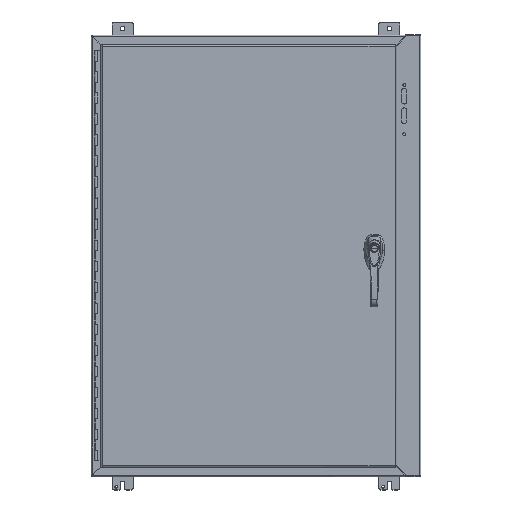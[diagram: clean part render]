
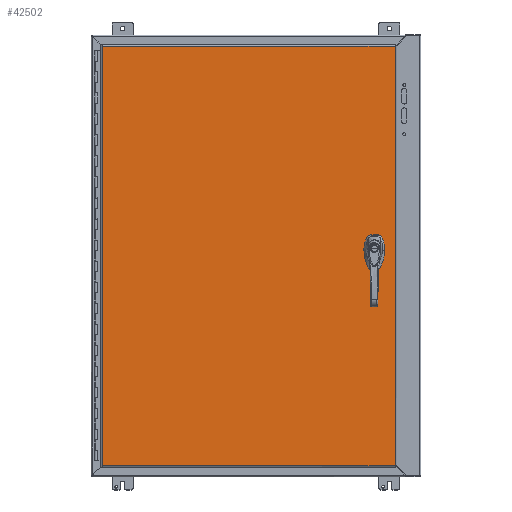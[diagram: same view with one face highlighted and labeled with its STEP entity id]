
A CAD part, top view. The second image highlights one B-rep face of the part: STEP entity #42502.
In plain terms, the highlighted planar face has unit normal (0, 0, 1).
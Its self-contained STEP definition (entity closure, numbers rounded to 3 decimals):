
#23800 = CARTESIAN_POINT ( 'NONE',  ( 12.536, 1.625, 0.072 ) ) ;
#23801 = DIRECTION ( 'NONE',  ( 1., 0., 0. ) ) ;
#23802 = DIRECTION ( 'NONE',  ( 0., 0., 1. ) ) ;
#23803 = CARTESIAN_POINT ( 'NONE',  ( 12.185, 1.625, 0.072 ) ) ;
#23804 = AXIS2_PLACEMENT_3D ( 'NONE', #23803, #23802, #23801 ) ;
#23805 = CIRCLE ( 'NONE', #23804, 0.351 ) ;
#23806 = CARTESIAN_POINT ( 'NONE',  ( 11.834, 1.625, 0.072 ) ) ;
#23842 = CARTESIAN_POINT ( 'NONE',  ( 11.833, 0., 0.072 ) ) ;
#23863 = CARTESIAN_POINT ( 'NONE',  ( -13.908, -19.943, 0.072 ) ) ;
#23880 = DIRECTION ( 'NONE',  ( -1., 0., 0. ) ) ;
#23881 = DIRECTION ( 'NONE',  ( 0., 0., -1. ) ) ;
#23882 = CARTESIAN_POINT ( 'NONE',  ( -14.06, 20.095, 0.072 ) ) ;
#23883 = AXIS2_PLACEMENT_3D ( 'NONE', #23882, #23881, #23880 ) ;
#23884 = PLANE ( 'NONE',  #23883 ) ;
#23885 = FACE_OUTER_BOUND ( 'NONE', #42570, .T. ) ;
#23886 = FACE_BOUND ( 'NONE', #42566, .T. ) ;
#23887 = FACE_BOUND ( 'NONE', #42562, .T. ) ;
#23888 = FACE_BOUND ( 'NONE', #42503, .T. ) ;
#23893 = CARTESIAN_POINT ( 'NONE',  ( 11.794, 0.687, 0.072 ) ) ;
#23924 = CARTESIAN_POINT ( 'NONE',  ( 13.908, 19.943, 0.072 ) ) ;
#23925 = DIRECTION ( 'NONE',  ( 0., 1., 0. ) ) ;
#23926 = VECTOR ( 'NONE', #23925, 39.37 ) ;
#23927 = CARTESIAN_POINT ( 'NONE',  ( 13.908, -19.995, 0.072 ) ) ;
#23928 = LINE ( 'NONE', #23927, #23926 ) ;
#23929 = CARTESIAN_POINT ( 'NONE',  ( 13.908, -19.943, 0.072 ) ) ;
#23930 = DIRECTION ( 'NONE',  ( 1., 0., 0. ) ) ;
#23931 = VECTOR ( 'NONE', #23930, 39.37 ) ;
#23932 = CARTESIAN_POINT ( 'NONE',  ( -13.908, -19.943, 0.072 ) ) ;
#23933 = LINE ( 'NONE', #23932, #23931 ) ;
#23945 = CARTESIAN_POINT ( 'NONE',  ( 12.536, 0., 0.072 ) ) ;
#23946 = DIRECTION ( 'NONE',  ( 1., 0., 0. ) ) ;
#23947 = DIRECTION ( 'NONE',  ( 0., 0., 1. ) ) ;
#23948 = CARTESIAN_POINT ( 'NONE',  ( 12.185, 0., 0.072 ) ) ;
#23949 = AXIS2_PLACEMENT_3D ( 'NONE', #23948, #23947, #23946 ) ;
#23950 = CIRCLE ( 'NONE', #23949, 0.351 ) ;
#23951 = CARTESIAN_POINT ( 'NONE',  ( 12.075, 0.687, 0.072 ) ) ;
#23952 = DIRECTION ( 'NONE',  ( 1., 0., 0. ) ) ;
#23953 = DIRECTION ( 'NONE',  ( 0., 0., 1. ) ) ;
#23954 = CARTESIAN_POINT ( 'NONE',  ( 11.935, 0.687, 0.072 ) ) ;
#23955 = AXIS2_PLACEMENT_3D ( 'NONE', #23954, #23953, #23952 ) ;
#23956 = CIRCLE ( 'NONE', #23955, 0.14 ) ;
#23957 = DIRECTION ( 'NONE',  ( 1., 0., 0. ) ) ;
#23958 = DIRECTION ( 'NONE',  ( 0., 0., 1. ) ) ;
#23959 = CARTESIAN_POINT ( 'NONE',  ( 12.185, 1.625, 0.072 ) ) ;
#23960 = AXIS2_PLACEMENT_3D ( 'NONE', #23959, #23958, #23957 ) ;
#23961 = CIRCLE ( 'NONE', #23960, 0.351 ) ;
#23963 = DIRECTION ( 'NONE',  ( 1., 0., 0. ) ) ;
#23964 = DIRECTION ( 'NONE',  ( 0., 0., 1. ) ) ;
#23965 = CARTESIAN_POINT ( 'NONE',  ( 12.185, 0., 0.072 ) ) ;
#23966 = AXIS2_PLACEMENT_3D ( 'NONE', #23965, #23964, #23963 ) ;
#23967 = CIRCLE ( 'NONE', #23966, 0.351 ) ;
#23985 = DIRECTION ( 'NONE',  ( 0., -1., 0. ) ) ;
#23986 = VECTOR ( 'NONE', #23985, 39.37 ) ;
#23987 = CARTESIAN_POINT ( 'NONE',  ( -13.908, 20.095, 0.072 ) ) ;
#23988 = LINE ( 'NONE', #23987, #23986 ) ;
#23989 = DIRECTION ( 'NONE',  ( -1., 0., 0. ) ) ;
#23990 = VECTOR ( 'NONE', #23989, 39.37 ) ;
#23991 = CARTESIAN_POINT ( 'NONE',  ( 13.96, 19.943, 0.072 ) ) ;
#23992 = LINE ( 'NONE', #23991, #23990 ) ;
#24006 = CARTESIAN_POINT ( 'NONE',  ( -13.908, 19.943, 0.072 ) ) ;
#24018 = DIRECTION ( 'NONE',  ( 1., 0., 0. ) ) ;
#24019 = DIRECTION ( 'NONE',  ( 0., 0., 1. ) ) ;
#24020 = CARTESIAN_POINT ( 'NONE',  ( 11.935, 0.687, 0.072 ) ) ;
#24021 = AXIS2_PLACEMENT_3D ( 'NONE', #24020, #24019, #24018 ) ;
#24022 = CIRCLE ( 'NONE', #24021, 0.14 ) ;
#42465 = VERTEX_POINT ( 'NONE', #23806 ) ;
#42467 = EDGE_CURVE ( 'NONE', #42465, #42468, #23805, .T. ) ;
#42468 = VERTEX_POINT ( 'NONE', #23800 ) ;
#42483 = VERTEX_POINT ( 'NONE', #23842 ) ;
#42502 = ADVANCED_FACE ( 'NONE', ( #23888, #23887, #23886, #23885 ), #23884, .F. ) ;
#42503 = EDGE_LOOP ( 'NONE', ( #42559, #42561 ) ) ;
#42513 = VERTEX_POINT ( 'NONE', #23863 ) ;
#42529 = VERTEX_POINT ( 'NONE', #23893 ) ;
#42531 = EDGE_CURVE ( 'NONE', #42529, #42532, #23956, .T. ) ;
#42532 = VERTEX_POINT ( 'NONE', #23951 ) ;
#42535 = EDGE_CURVE ( 'NONE', #42483, #42536, #23950, .T. ) ;
#42536 = VERTEX_POINT ( 'NONE', #23945 ) ;
#42546 = EDGE_CURVE ( 'NONE', #42513, #42547, #23933, .T. ) ;
#42547 = VERTEX_POINT ( 'NONE', #23929 ) ;
#42548 = ORIENTED_EDGE ( 'NONE', *, *, #42549, .T. ) ;
#42549 = EDGE_CURVE ( 'NONE', #42547, #42550, #23928, .T. ) ;
#42550 = VERTEX_POINT ( 'NONE', #23924 ) ;
#42551 = ORIENTED_EDGE ( 'NONE', *, *, #42552, .T. ) ;
#42552 = EDGE_CURVE ( 'NONE', #42550, #42578, #23992, .T. ) ;
#42553 = ORIENTED_EDGE ( 'NONE', *, *, #42554, .T. ) ;
#42554 = EDGE_CURVE ( 'NONE', #42578, #42513, #23988, .T. ) ;
#42559 = ORIENTED_EDGE ( 'NONE', *, *, #42560, .F. ) ;
#42560 = EDGE_CURVE ( 'NONE', #42536, #42483, #23967, .T. ) ;
#42561 = ORIENTED_EDGE ( 'NONE', *, *, #42535, .F. ) ;
#42562 = EDGE_LOOP ( 'NONE', ( #42563, #42565 ) ) ;
#42563 = ORIENTED_EDGE ( 'NONE', *, *, #42564, .F. ) ;
#42564 = EDGE_CURVE ( 'NONE', #42468, #42465, #23961, .T. ) ;
#42565 = ORIENTED_EDGE ( 'NONE', *, *, #42467, .F. ) ;
#42566 = EDGE_LOOP ( 'NONE', ( #42567, #42569 ) ) ;
#42567 = ORIENTED_EDGE ( 'NONE', *, *, #42568, .F. ) ;
#42568 = EDGE_CURVE ( 'NONE', #42532, #42529, #24022, .T. ) ;
#42569 = ORIENTED_EDGE ( 'NONE', *, *, #42531, .F. ) ;
#42570 = EDGE_LOOP ( 'NONE', ( #42571, #42548, #42551, #42553 ) ) ;
#42571 = ORIENTED_EDGE ( 'NONE', *, *, #42546, .T. ) ;
#42578 = VERTEX_POINT ( 'NONE', #24006 ) ;
